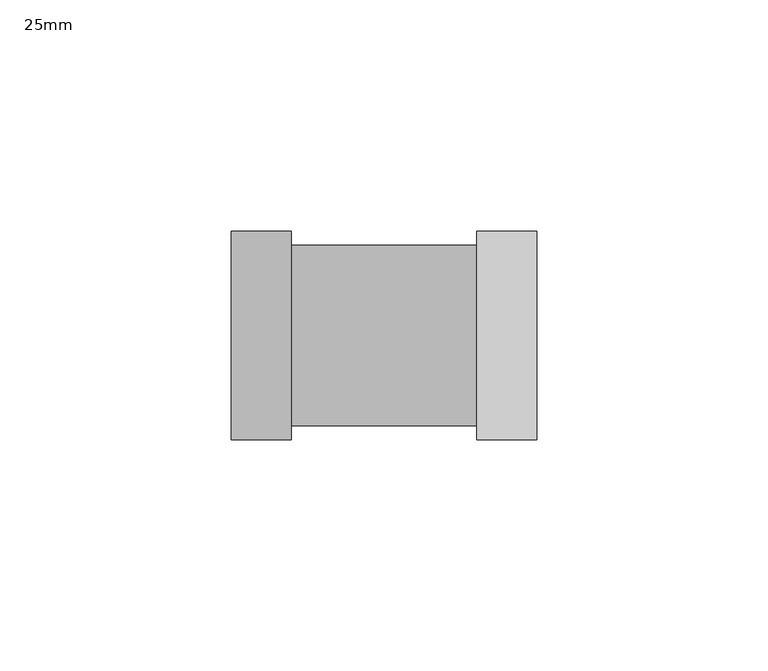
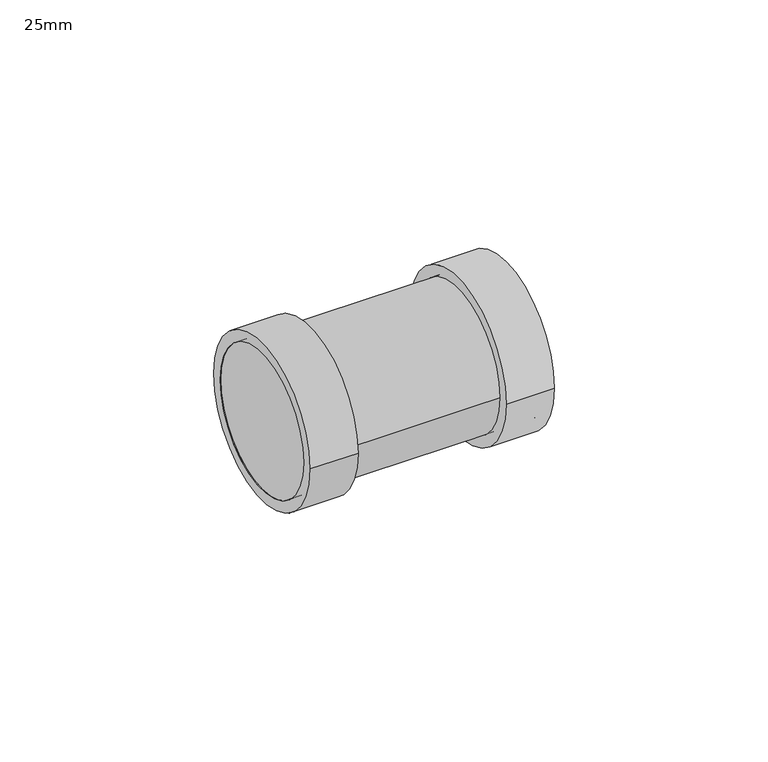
"""IFC4 building model written with IfcOpenShell, lengths in millimetres: pipe fitting geometry, PipeFitting_HTA_CPVC_StraightCouplingsThermocouples : 25mm."""

import ifcopenshell
import ifcopenshell.guid

model = None  # the IFC model being written
_history = None  # IfcOwnerHistory: only IFC2X3 demands one
_inside = {}  # id of a spatial element -> (the spatial element, [elements in it])
_under = {}  # id of a project, library or spatial element -> (it, [spatial elements below it])
_declared = {}  # id of a project -> (the project, [libraries it declares])
_typed = {}  # id of a type object -> (the type object, [elements of that type])
_made_of = {}  # id of a material, layer set ... -> (it, [elements and type objects made of it])


def new_model(schema):
    """Start an empty IFC model of exactly this schema.

    Asked for "IFC4X3", IfcOpenShell would pick the latest addendum, in which some entities
    have other attributes; the version numbers below select the first issue.
    IFC2X3 requires an IfcOwnerHistory on every rooted entity: one is made here for all.
    """
    global model, _history
    if schema == "IFC4X3":
        model = ifcopenshell.file(schema_version=(4, 3, 0, 0))
    else:
        model = ifcopenshell.file(schema=schema)
    _inside.clear()
    _under.clear()
    _declared.clear()
    _typed.clear()
    _made_of.clear()
    _history = None
    if model.schema == "IFC2X3":
        org = make("IfcOrganization", Name="unknown")
        user = make(
            "IfcPersonAndOrganization",
            ThePerson=make("IfcPerson", FamilyName="unknown"),
            TheOrganization=org,
        )
        app = make(
            "IfcApplication",
            ApplicationDeveloper=org,
            Version="unknown",
            ApplicationFullName="unknown",
            ApplicationIdentifier="unknown",
        )
        _history = make(
            "IfcOwnerHistory",
            OwningUser=user,
            OwningApplication=app,
            ChangeAction="ADDED",
            CreationDate=0,
        )
    return model


def make(cls, **values):
    """One entity of the class cls with the attributes given. An attribute that is None is left unset."""
    return model.create_entity(
        cls, **{name: value for name, value in values.items() if value is not None}
    )


def rooted(cls, **values):
    """An entity with a GlobalId (a new one), such as an element, a storey or a relation."""
    return make(cls, GlobalId=ifcopenshell.guid.new(), OwnerHistory=_history, **values)


def si_unit(unit_type, name, prefix=None):
    """IfcSIUnit, for example si_unit("LENGTHUNIT", "METRE", prefix="MILLI")."""
    return make("IfcSIUnit", UnitType=unit_type, Prefix=prefix, Name=name)


def assignment(units):
    """IfcUnitAssignment: the units of a project."""
    return None if units is None else make("IfcUnitAssignment", Units=units)


def point(xyz):
    """IfcCartesianPoint."""
    return None if xyz is None else make("IfcCartesianPoint", Coordinates=xyz)


def direction(xyz):
    """IfcDirection."""
    return None if xyz is None else make("IfcDirection", DirectionRatios=xyz)


def frame(location, z_axis=None, x_axis=None):
    """IfcAxis2Placement3D, a coordinate frame: its origin and axes. An axis left out is left unset."""
    return make(
        "IfcAxis2Placement3D",
        Location=point(location),
        Axis=direction(z_axis),
        RefDirection=direction(x_axis),
    )


def frame_2d(location, x_axis=None):
    """IfcAxis2Placement2D, a coordinate frame in the plane: its origin and x axis."""
    return make(
        "IfcAxis2Placement2D", Location=point(location), RefDirection=direction(x_axis)
    )


def origin():
    """The frame at (0, 0, 0) with its axes left unset."""
    return frame((0.0, 0.0, 0.0))


def origin_2d():
    """The frame at (0, 0) in the plane with its x axis left unset."""
    return frame_2d((0.0, 0.0))


def place(relative_to, where):
    """IfcLocalPlacement: puts the frame where relative to a parent placement (None: the world)."""
    return make(
        "IfcLocalPlacement", PlacementRelTo=relative_to, RelativePlacement=where
    )


def context(
    kind, dimensions, precision=None, world=None, true_north=None, identifier=None
):
    """IfcGeometricRepresentationContext, for example the 3D "Model" context."""
    return make(
        "IfcGeometricRepresentationContext",
        ContextIdentifier=identifier,
        ContextType=kind,
        CoordinateSpaceDimension=dimensions,
        Precision=precision,
        WorldCoordinateSystem=world,
        TrueNorth=true_north,
    )


def project(units=None, contexts=None):
    """IfcProject with its units and contexts."""
    return rooted(
        "IfcProject",
        Name="project",
        RepresentationContexts=contexts,
        UnitsInContext=assignment(units),
    )


def spatial(cls, under=None, at=None, **own):
    """A site, building, storey or space (cls), placed at a placement, below another one or the project."""
    s = rooted(cls, ObjectPlacement=at, **own)
    if under is not None:
        _under.setdefault(under.id(), (under, []))[1].append(s)
    return s


def circle_curve(where, radius):
    """IfcCircle in the frame where."""
    return make("IfcCircle", Position=where, Radius=radius)


def trimmed(basis, trim1, trim2, sense, master):
    """IfcTrimmedCurve: the piece of a basis curve between two trims."""
    return make(
        "IfcTrimmedCurve",
        BasisCurve=basis,
        Trim1=trim1,
        Trim2=trim2,
        SenseAgreement=sense,
        MasterRepresentation=master,
    )


def segment(curve, same_sense, transition):
    """IfcCompositeCurveSegment."""
    return make(
        "IfcCompositeCurveSegment",
        Transition=transition,
        SameSense=same_sense,
        ParentCurve=curve,
    )


def composite_curve(segments, self_intersect=None):
    """IfcCompositeCurve: segments joined end to end."""
    return make("IfcCompositeCurve", Segments=segments, SelfIntersect=self_intersect)


def outline(outer, holes=None, kind="AREA"):
    """IfcArbitraryClosedProfileDef: a profile drawn as a closed curve; with holes, ...WithVoids."""
    if holes is None:
        return make("IfcArbitraryClosedProfileDef", ProfileType=kind, OuterCurve=outer)
    return make(
        "IfcArbitraryProfileDefWithVoids",
        ProfileType=kind,
        OuterCurve=outer,
        InnerCurves=holes,
    )


def extrude(swept, where, along, depth):
    """IfcExtrudedAreaSolid: the profile swept, set in the frame where, extruded along a direction by depth."""
    return make(
        "IfcExtrudedAreaSolid",
        SweptArea=swept,
        Position=where,
        ExtrudedDirection=direction(along),
        Depth=depth,
    )


def shape(context_of_items, identifier, shape_type, items):
    """IfcShapeRepresentation: the items that make up one representation, for example the "Body"."""
    return make(
        "IfcShapeRepresentation",
        ContextOfItems=context_of_items,
        RepresentationIdentifier=identifier,
        RepresentationType=shape_type,
        Items=items,
    )


def source(mapping_origin, context_of_items, identifier, shape_type, items):
    """IfcRepresentationMap: a shape defined once, which mapped items show again and again."""
    return make(
        "IfcRepresentationMap",
        MappingOrigin=mapping_origin,
        MappedRepresentation=shape(context_of_items, identifier, shape_type, items),
    )


def transform(
    local_origin,
    x_axis=None,
    y_axis=None,
    z_axis=None,
    scale=None,
    scale2=None,
    scale3=None,
    uniform=True,
):
    """IfcCartesianTransformationOperator3D, or its non-uniform kind. x_axis, y_axis, z_axis: its Axis1, 2, 3."""
    if uniform:
        return make(
            "IfcCartesianTransformationOperator3D",
            Axis1=direction(x_axis),
            Axis2=direction(y_axis),
            LocalOrigin=point(local_origin),
            Scale=scale,
            Axis3=direction(z_axis),
        )
    return make(
        "IfcCartesianTransformationOperator3DnonUniform",
        Axis1=direction(x_axis),
        Axis2=direction(y_axis),
        LocalOrigin=point(local_origin),
        Scale=scale,
        Axis3=direction(z_axis),
        Scale2=scale2,
        Scale3=scale3,
    )


def mapped(mapping_source, mapping_target):
    """IfcMappedItem: shows the shape of a source again, moved by a transform."""
    return make(
        "IfcMappedItem", MappingSource=mapping_source, MappingTarget=mapping_target
    )


def made_of(thing, what):
    """Note that an element or type object is made of a material, layer set ...; save() writes the relation."""
    if what is not None:
        _made_of.setdefault(what.id(), (what, []))[1].append(thing)
    return thing


def element(
    cls,
    number,
    at=None,
    inside=None,
    cuts=None,
    type_object=None,
    material=None,
    context=None,
    identifier="Body",
    shape_type=None,
    held_by="IfcProductDefinitionShape",
    body=None,
    shapes=None,
    **own,
):
    """One element of the class cls, such as IfcWall. Its Tag is "e" and its number.

    at: its placement. inside: the storey or other place that contains it. cuts: it is an
    opening in that element (IfcRelVoidsElement). A single representation is given by context,
    identifier, shape_type and body (its items); several are given by shapes. held_by: the class
    of the entity that holds the representations. save() writes the other relations.
    """
    e = rooted(cls, Tag="e%d" % number, ObjectPlacement=at, **own)
    if body is not None:
        shapes = [shape(context, identifier, shape_type, body)]
    if shapes is not None:
        e.Representation = make(held_by, Representations=shapes)
    if inside is not None:
        _inside.setdefault(inside.id(), (inside, []))[1].append(e)
    if cuts is not None:
        rooted(
            "IfcRelVoidsElement", RelatingBuildingElement=cuts, RelatedOpeningElement=e
        )
    if type_object is not None:
        _typed.setdefault(type_object.id(), (type_object, []))[1].append(e)
    return made_of(e, material)


def aggregate(whole, parts):
    """IfcRelAggregates: a whole, such as a stair, and the parts it consists of."""
    return rooted("IfcRelAggregates", RelatingObject=whole, RelatedObjects=parts)


def save(model, path):
    """Write the relations noted so far, then the file.

    IfcRelAggregates (storeys below a building ...), IfcRelContainedInSpatialStructure (elements
    in a storey), IfcRelDefinesByType, IfcRelAssociatesMaterial and IfcRelDeclares: one each for
    every whole, place, type object, material and project.
    """
    for whole, parts in _under.values():
        aggregate(whole, parts)
    for where, things in _inside.values():
        rooted(
            "IfcRelContainedInSpatialStructure",
            RelatedElements=things,
            RelatingStructure=where,
        )
    for kind, things in _typed.values():
        rooted("IfcRelDefinesByType", RelatedObjects=things, RelatingType=kind)
    for what, things in _made_of.values():
        rooted("IfcRelAssociatesMaterial", RelatedObjects=things, RelatingMaterial=what)
    for by, libraries in _declared.values():
        rooted("IfcRelDeclares", RelatingContext=by, RelatedDefinitions=libraries)
    model.write(path)


def pipe_fitting_25mm_3604a4b6(model_context):
    return source(origin(), model_context, "Body", "SweptSolid", [
        extrude(outline(composite_curve([segment(trimmed(circle_curve(origin_2d(), 22.5), [point((-22.5, 0.0))], [point((22.5, 0.0))], False, "CARTESIAN"), True, "CONTINUOUS"), segment(trimmed(circle_curve(origin_2d(), 22.5), [point((22.5, 0.0))], [point((-22.5, 0.0))], False, "CARTESIAN"), True, "CONTINUOUS")], self_intersect=False), holes=[composite_curve([segment(trimmed(circle_curve(origin_2d(), 19.5), [point((-19.5, 0.0))], [point((19.5, 0.0))], True, "CARTESIAN"), True, "CONTINUOUS"), segment(trimmed(circle_curve(origin_2d(), 19.5), [point((19.5, 0.0))], [point((-19.5, 0.0))], True, "CARTESIAN"), True, "CONTINUOUS")], self_intersect=False)]), frame((-33.0, 0.0, 0.0), z_axis=(1.0, 0.0, 0.0), x_axis=(0.0, 1.0, 0.0)), (0.0, 0.0, 1.0), 13.0),
        extrude(outline(composite_curve([segment(trimmed(circle_curve(origin_2d(), 22.5), [point((22.5, 0.0))], [point((-22.5, 0.0))], False, "CARTESIAN"), True, "CONTINUOUS"), segment(trimmed(circle_curve(origin_2d(), 22.5), [point((-22.5, 0.0))], [point((22.5, 0.0))], False, "CARTESIAN"), True, "CONTINUOUS")], self_intersect=False), holes=[composite_curve([segment(trimmed(circle_curve(origin_2d(), 19.5), [point((19.5, 0.0))], [point((-19.5, 0.0))], True, "CARTESIAN"), True, "CONTINUOUS"), segment(trimmed(circle_curve(origin_2d(), 19.5), [point((-19.5, 0.0))], [point((19.5, 0.0))], True, "CARTESIAN"), True, "CONTINUOUS")], self_intersect=False)]), frame((20.0, 0.0, 0.0), z_axis=(1.0, 0.0, 0.0), x_axis=(0.0, 1.0, 0.0)), (0.0, 0.0, 1.0), 13.0),
        extrude(outline(composite_curve([segment(trimmed(circle_curve(origin_2d(), 19.5), [point((-19.5, 0.0))], [point((19.5, 0.0))], False, "CARTESIAN"), True, "CONTINUOUS"), segment(trimmed(circle_curve(origin_2d(), 19.5), [point((19.5, 0.0))], [point((-19.5, 0.0))], False, "CARTESIAN"), True, "CONTINUOUS")], self_intersect=False)), frame((-33.0, 0.0, 0.0), z_axis=(1.0, 0.0, 0.0), x_axis=(0.0, 1.0, 0.0)), (0.0, 0.0, 1.0), 66.0),
    ])


if __name__ == "__main__":
    model = new_model("IFC4")
    model_context = context("Model", 3, world=origin())
    ifc_project = project(units=[si_unit("LENGTHUNIT", "METRE", prefix="MILLI")], contexts=[model_context])
    site = spatial("IfcSite", under=ifc_project)
    building = spatial("IfcBuilding", under=site)
    placement = place(None, origin())
    pipe_fitting_25mm_shape = pipe_fitting_25mm_3604a4b6(model_context)
    element("IfcPipeFitting", 1, ObjectType="PipeFitting_HTA_CPVC_StraightCouplingsThermocouples : 25mm", at=placement, inside=building, context=model_context, shape_type="MappedRepresentation", body=[
        mapped(pipe_fitting_25mm_shape, transform((0.0, 0.0, 0.0), x_axis=(1.0, 0.0, 0.0), y_axis=(0.0, 1.0, 0.0), z_axis=(0.0, 0.0, 1.0))),
    ])
    save(model, "model.ifc")
